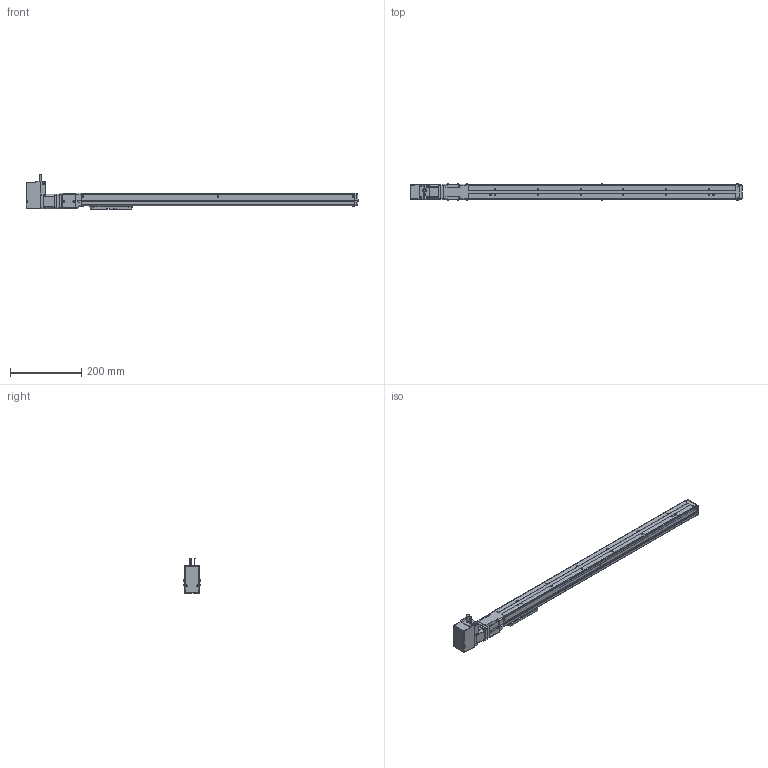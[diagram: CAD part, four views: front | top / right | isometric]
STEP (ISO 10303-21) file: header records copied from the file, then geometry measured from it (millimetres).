
FILE_DESCRIPTION(('FreeCAD Model'),'2;1');
FILE_NAME('Open CASCADE Shape Model','2023-08-01T18:07:20',('Author'),( ''),'Open CASCADE STEP processor 7.5','FreeCAD','Unknown');
FILE_SCHEMA(('AUTOMOTIVE_DESIGN { 1 0 10303 214 1 1 1 1 }'));
Length unit declared in the file: millimetre
Products named in the file (20): RCB0411; Shapes; Shapes001; Shapes002; Shapes003; Shapes004; Shapes005; Shapes006; Shapes007; Shapes008; Shapes009; Shapes010; Shapes011; Shapes012; Shapes013; KSF4-10-0600-0-AR(0); KSF4---(Cover); KSF4-AR---(Motor bracket); KSF4-10-0600---(slider); KSF4-10-0600-0-AR-(06000ARNo0)---(body)
Assembly tree (19 placements, depth 3):
  RCB0411
    Shapes
    Shapes001
    Shapes002
    Shapes003
    Shapes004
    Shapes005
    Shapes006
    Shapes007
    Shapes008
    Shapes009
    Shapes010
    Shapes011
    Shapes012
    Shapes013
    KSF4-10-0600-0-AR(0)
      KSF4---(Cover)
      KSF4-AR---(Motor bracket)
      KSF4-10-0600---(slider)
      KSF4-10-0600-0-AR-(06000ARNo0)---(body)
Bounding box: 932 x 45.4 x 97.64 mm (x, y, z)
Volume: 1487324.2 mm3; surface area: 280622.3 mm2
Topology: 18 solids, 18 shells, 1261 faces, 3260 edges, 2126 vertices
Faces by surface type: plane 687, cylinder 428, cone 66, torus 51, bspline 19, revolution 6, sphere 4
Full cylindrical faces by diameter (mm): 2.113 x8, 2.459 x3, 3 x6, 3.242 x4, 3.4 x16, 4 x3, 4.5 x2, 5.5 x8, 6 x1, 6.5 x18, 8 x1, 12 x1, 22 x1, 28 x1, 30 x2
Entity records: 92510 total; most frequent: CARTESIAN_POINT 26716, DIRECTION 12367, LINE 7311, VECTOR 7311, ORIENTED_EDGE 6484, PCURVE 6484, DEFINITIONAL_REPRESENTATION 6484, EDGE_CURVE 3242
